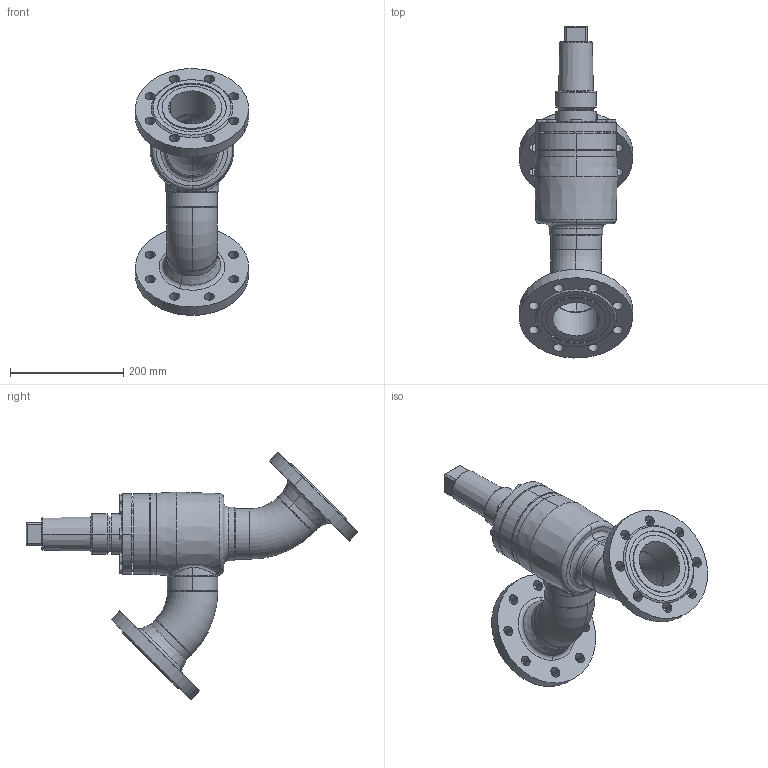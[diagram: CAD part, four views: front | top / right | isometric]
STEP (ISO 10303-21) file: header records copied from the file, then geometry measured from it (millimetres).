
FILE_DESCRIPTION (( 'STEP AP214' ), '1' );
FILE_NAME ('HRAB12320D18-DN080_DIN-FL-N_PS40.STEP', '2007-01-08T07:24:11', ( 'Herr Grams' ), ( 'AWP GmbH' ), 'SwSTEP 2.0', 'SolidWorks 2002296', '' );
FILE_SCHEMA (( 'AUTOMOTIVE_DESIGN' ));
Length unit declared in the file: millimetre
Products named in the file (17): HRAB12320D18-DN080_DIN-FL-N_PS40; AVB16300E18_Deck+Schr-DN80_Standard; Deckel16300E18-DN80_Standard; Sechskantschraube-DIN933_M10x 30; Gehäuse-kpl16320-DN080_DIN_PS40_Standard; Gehäuse-kpl16300-DN080_R1_Standard; Gehäuse-kpl16400-DN080_R1_Standard; Gehäuse16400-DN080_Standard; Kopfstück16300-DN080_Standard; bead-DN080-1_Standard; bead-DN080-2_Standard; bead-DN080-3_Standard; Rohrbogen 45°_Rohrbogen-DN080-45°; Flansch-DIN-Nut_PS40_DIN-Flansch-DN080_PS40-Nut; bead-DN080-6_Standard; bead-DN080-7_Standard; Kappe16402_DN080-100_Standard
Assembly tree (25 placements, depth 5):
  HRAB12320D18-DN080_DIN-FL-N_PS40
    AVB16300E18_Deck+Schr-DN80_Standard
      Sechskantschraube-DIN933_M10x 30  x8
      Deckel16300E18-DN80_Standard
    Kappe16402_DN080-100_Standard
    Gehäuse-kpl16320-DN080_DIN_PS40_Standard
      bead-DN080-6_Standard
      Gehäuse-kpl16300-DN080_R1_Standard
        Rohrbogen 45°_Rohrbogen-DN080-45°  x2
        bead-DN080-2_Standard
        bead-DN080-3_Standard
        Gehäuse-kpl16400-DN080_R1_Standard
          Gehäuse16400-DN080_Standard
          Kopfstück16300-DN080_Standard
          bead-DN080-1_Standard
      bead-DN080-7_Standard
      Flansch-DIN-Nut_PS40_DIN-Flansch-DN080_PS40-Nut  x2
Bounding box: 199.81 x 585.85 x 435.48 mm (x, y, z)
Volume: 3270580.2 mm3; surface area: 652434.9 mm2
Topology: 21 solids, 21 shells, 475 faces, 1078 edges, 663 vertices
Faces by surface type: cylinder 152, cone 141, plane 130, bspline 28, torus 24
Entity records: 21105 total; most frequent: CARTESIAN_POINT 14256, DIRECTION 1283, ORIENTED_EDGE 1176, EDGE_CURVE 588, AXIS2_PLACEMENT_3D 565, VERTEX_POINT 371, EDGE_LOOP 323, CIRCLE 305
